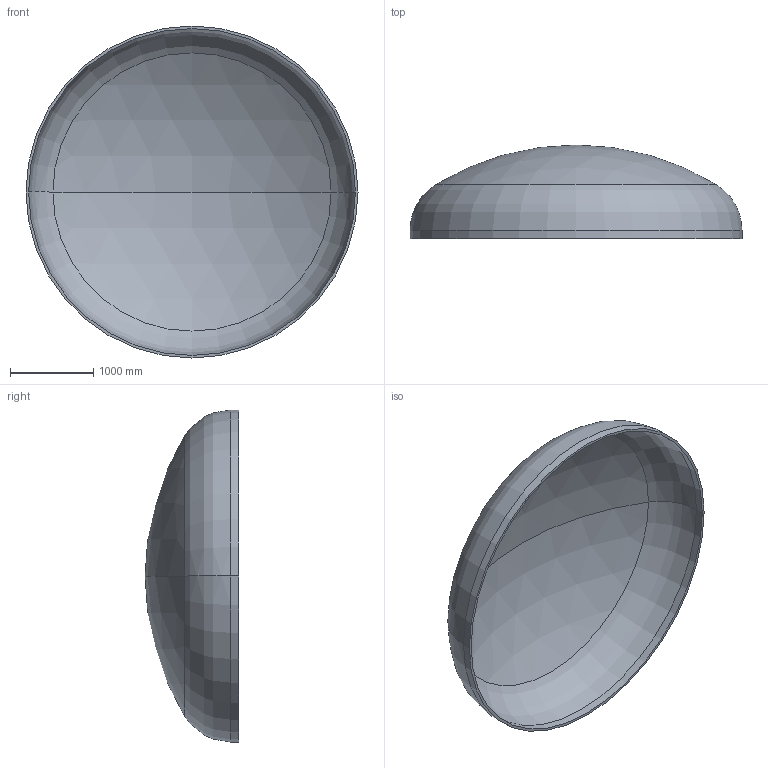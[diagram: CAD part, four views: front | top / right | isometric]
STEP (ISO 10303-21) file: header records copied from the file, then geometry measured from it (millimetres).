
FILE_DESCRIPTION (( 'STEP AP203' ), '1' );
FILE_NAME ('DIN 28013 Korbbogenform_-_Boden DIN 28013 - 4000 x 100 - I - s=31.step', '2016-07-01T22:15:51', ( '' ), ( '' ), 'SwSTEP 2.0', 'SolidWorks 2013', '' );
FILE_SCHEMA (( 'CONFIG_CONTROL_DESIGN' ));
Length unit declared in the file: millimetre
Products named in the file (1): DIN 28013 Korbbogenform_-_Boden DIN 28013 - 4000 x 100 - I - s=31
Bounding box: 4000 x 1128.98 x 4000 mm (x, y, z)
Volume: 572519027.1 mm3; surface area: 37325248.5 mm2
Topology: 1 solids, 1 shells, 13 faces, 24 edges, 14 vertices
Faces by surface type: torus 4, cylinder 4, sphere 4, plane 1
Entity records: 407 total; most frequent: DIRECTION 72, CARTESIAN_POINT 52, ORIENTED_EDGE 48, AXIS2_PLACEMENT_3D 34, EDGE_CURVE 24, CIRCLE 20, EDGE_LOOP 14, VERTEX_POINT 14
